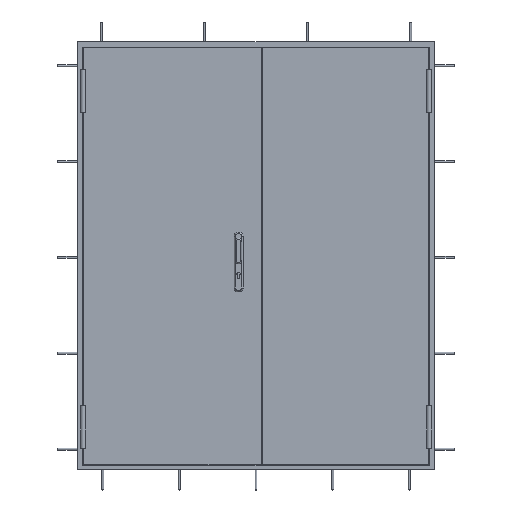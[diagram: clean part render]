
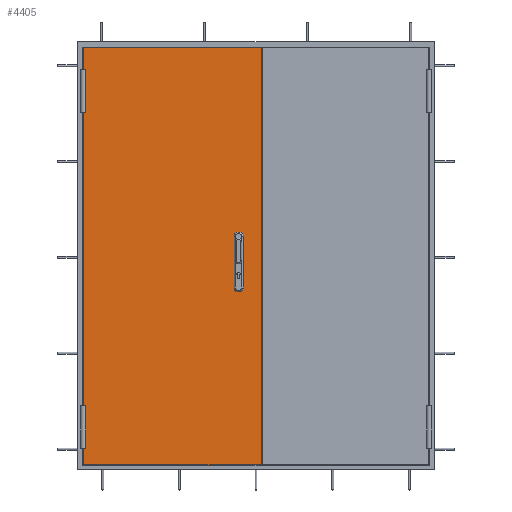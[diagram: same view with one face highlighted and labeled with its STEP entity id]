
A CAD part, top view. The second image highlights one B-rep face of the part: STEP entity #4405.
In plain terms, the highlighted planar face has unit normal (0, 0, 1).
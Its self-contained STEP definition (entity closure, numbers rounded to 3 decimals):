
#1335=DIRECTION('',(0.,1.,0.));
#1336=VECTOR('',#1335,2092.);
#1337=CARTESIAN_POINT('',(26.5,-1054.,0.));
#1338=LINE('',#1337,#1336);
#1339=DIRECTION('',(1.,0.,0.));
#1340=VECTOR('',#1339,892.5);
#1341=CARTESIAN_POINT('',(-866.,-1054.,0.));
#1342=LINE('',#1341,#1340);
#1343=DIRECTION('',(0.,-1.,0.));
#1344=VECTOR('',#1343,83.5);
#1345=CARTESIAN_POINT('',(-866.,-970.5,0.));
#1346=LINE('',#1345,#1344);
#1347=DIRECTION('',(1.,0.,0.));
#1348=VECTOR('',#1347,10.25);
#1349=CARTESIAN_POINT('',(-866.,-970.5,0.));
#1350=LINE('',#1349,#1348);
#1351=DIRECTION('',(0.,-1.,0.));
#1352=VECTOR('',#1351,213.);
#1353=CARTESIAN_POINT('',(-855.75,-757.5,0.));
#1354=LINE('',#1353,#1352);
#1355=DIRECTION('',(1.,0.,0.));
#1356=VECTOR('',#1355,10.25);
#1357=CARTESIAN_POINT('',(-866.,-757.5,0.));
#1358=LINE('',#1357,#1356);
#1359=DIRECTION('',(0.,-1.,0.));
#1360=VECTOR('',#1359,1472.);
#1361=CARTESIAN_POINT('',(-866.,714.5,0.));
#1362=LINE('',#1361,#1360);
#1363=DIRECTION('',(1.,0.,0.));
#1364=VECTOR('',#1363,10.25);
#1365=CARTESIAN_POINT('',(-866.,714.5,0.));
#1366=LINE('',#1365,#1364);
#1367=DIRECTION('',(0.,1.,0.));
#1368=VECTOR('',#1367,213.);
#1369=CARTESIAN_POINT('',(-855.75,714.5,0.));
#1370=LINE('',#1369,#1368);
#1371=DIRECTION('',(1.,0.,0.));
#1372=VECTOR('',#1371,10.25);
#1373=CARTESIAN_POINT('',(-866.,927.5,0.));
#1374=LINE('',#1373,#1372);
#1375=DIRECTION('',(0.,-1.,0.));
#1376=VECTOR('',#1375,110.5);
#1377=CARTESIAN_POINT('',(-866.,1038.,0.));
#1378=LINE('',#1377,#1376);
#1379=DIRECTION('',(-1.,0.,0.));
#1380=VECTOR('',#1379,892.5);
#1381=CARTESIAN_POINT('',(26.5,1038.,0.));
#1382=LINE('',#1381,#1380);
#1383=DIRECTION('',(0.,-1.,0.));
#1384=VECTOR('',#1383,260.);
#1385=CARTESIAN_POINT('',(-110.,92.9,0.));
#1386=LINE('',#1385,#1384);
#1387=CARTESIAN_POINT('',(-90.,-167.1,0.));
#1388=DIRECTION('',(0.,0.,1.));
#1389=DIRECTION('',(-1.,0.,0.));
#1390=AXIS2_PLACEMENT_3D('',#1387,#1388,#1389);
#1392=DIRECTION('',(1.,0.,0.));
#1393=VECTOR('',#1392,5.);
#1394=CARTESIAN_POINT('',(-90.,-187.1,0.));
#1395=LINE('',#1394,#1393);
#1396=CARTESIAN_POINT('',(-85.,-167.1,0.));
#1397=DIRECTION('',(0.,0.,1.));
#1398=DIRECTION('',(0.,-1.,0.));
#1399=AXIS2_PLACEMENT_3D('',#1396,#1397,#1398);
#1401=DIRECTION('',(0.,1.,0.));
#1402=VECTOR('',#1401,260.);
#1403=CARTESIAN_POINT('',(-65.,-167.1,0.));
#1404=LINE('',#1403,#1402);
#1405=CARTESIAN_POINT('',(-85.,92.9,0.));
#1406=DIRECTION('',(0.,0.,1.));
#1407=DIRECTION('',(1.,0.,0.));
#1408=AXIS2_PLACEMENT_3D('',#1405,#1406,#1407);
#1410=DIRECTION('',(-1.,0.,0.));
#1411=VECTOR('',#1410,5.);
#1412=CARTESIAN_POINT('',(-85.,112.9,0.));
#1413=LINE('',#1412,#1411);
#1414=CARTESIAN_POINT('',(-90.,92.9,0.));
#1415=DIRECTION('',(0.,0.,1.));
#1416=DIRECTION('',(0.,1.,0.));
#1417=AXIS2_PLACEMENT_3D('',#1414,#1415,#1416);
#2344=CARTESIAN_POINT('',(-866.,1038.,0.));
#2345=VERTEX_POINT('',#2344);
#2346=CARTESIAN_POINT('',(-866.,-1054.,0.));
#2347=VERTEX_POINT('',#2346);
#2360=CARTESIAN_POINT('',(-866.,-970.5,0.));
#2361=CARTESIAN_POINT('',(-855.75,-970.5,0.));
#2362=VERTEX_POINT('',#2360);
#2363=VERTEX_POINT('',#2361);
#2364=CARTESIAN_POINT('',(-866.,-757.5,0.));
#2365=CARTESIAN_POINT('',(-855.75,-757.5,0.));
#2366=VERTEX_POINT('',#2364);
#2367=VERTEX_POINT('',#2365);
#2384=CARTESIAN_POINT('',(-866.,927.5,0.));
#2385=CARTESIAN_POINT('',(-855.75,927.5,0.));
#2386=VERTEX_POINT('',#2384);
#2387=VERTEX_POINT('',#2385);
#2388=CARTESIAN_POINT('',(-866.,714.5,0.));
#2389=CARTESIAN_POINT('',(-855.75,714.5,0.));
#2390=VERTEX_POINT('',#2388);
#2391=VERTEX_POINT('',#2389);
#2452=CARTESIAN_POINT('',(26.5,-1054.,0.));
#2453=CARTESIAN_POINT('',(26.5,1038.,0.));
#2454=VERTEX_POINT('',#2452);
#2455=VERTEX_POINT('',#2453);
#2720=CARTESIAN_POINT('',(-110.,92.9,0.));
#2721=CARTESIAN_POINT('',(-110.,-167.1,0.));
#2722=VERTEX_POINT('',#2720);
#2723=VERTEX_POINT('',#2721);
#2724=CARTESIAN_POINT('',(-90.,-187.1,0.));
#2725=CARTESIAN_POINT('',(-85.,-187.1,0.));
#2726=VERTEX_POINT('',#2724);
#2727=VERTEX_POINT('',#2725);
#2728=CARTESIAN_POINT('',(-65.,-167.1,0.));
#2729=CARTESIAN_POINT('',(-65.,92.9,0.));
#2730=VERTEX_POINT('',#2728);
#2731=VERTEX_POINT('',#2729);
#2732=CARTESIAN_POINT('',(-85.,112.9,0.));
#2733=CARTESIAN_POINT('',(-90.,112.9,0.));
#2734=VERTEX_POINT('',#2732);
#2735=VERTEX_POINT('',#2733);
#4356=CARTESIAN_POINT('',(0.,0.,0.));
#4357=DIRECTION('',(0.,0.,1.));
#4358=DIRECTION('',(1.,0.,0.));
#4359=AXIS2_PLACEMENT_3D('',#4356,#4357,#4358);
#4360=PLANE('',#4359);
#4362=ORIENTED_EDGE('',*,*,#4361,.F.);
#4364=ORIENTED_EDGE('',*,*,#4363,.F.);
#4366=ORIENTED_EDGE('',*,*,#4365,.F.);
#4368=ORIENTED_EDGE('',*,*,#4367,.T.);
#4370=ORIENTED_EDGE('',*,*,#4369,.F.);
#4372=ORIENTED_EDGE('',*,*,#4371,.F.);
#4374=ORIENTED_EDGE('',*,*,#4373,.F.);
#4376=ORIENTED_EDGE('',*,*,#4375,.T.);
#4378=ORIENTED_EDGE('',*,*,#4377,.T.);
#4380=ORIENTED_EDGE('',*,*,#4379,.F.);
#4382=ORIENTED_EDGE('',*,*,#4381,.F.);
#4384=ORIENTED_EDGE('',*,*,#4383,.F.);
#4385=EDGE_LOOP('',(#4362,#4364,#4366,#4368,#4370,#4372,#4374,#4376,#4378,#4380,
#4382,#4384));
#4386=FACE_OUTER_BOUND('',#4385,.F.);
#4388=ORIENTED_EDGE('',*,*,#4387,.T.);
#4390=ORIENTED_EDGE('',*,*,#4389,.T.);
#4392=ORIENTED_EDGE('',*,*,#4391,.T.);
#4394=ORIENTED_EDGE('',*,*,#4393,.T.);
#4396=ORIENTED_EDGE('',*,*,#4395,.T.);
#4398=ORIENTED_EDGE('',*,*,#4397,.T.);
#4400=ORIENTED_EDGE('',*,*,#4399,.T.);
#4402=ORIENTED_EDGE('',*,*,#4401,.T.);
#4403=EDGE_LOOP('',(#4388,#4390,#4392,#4394,#4396,#4398,#4400,#4402));
#4404=FACE_BOUND('',#4403,.F.);
#1391=CIRCLE('',#1390,20.);
#1400=CIRCLE('',#1399,20.);
#1409=CIRCLE('',#1408,20.);
#1418=CIRCLE('',#1417,20.);
#4361=EDGE_CURVE('',#2454,#2455,#1338,.T.);
#4363=EDGE_CURVE('',#2347,#2454,#1342,.T.);
#4365=EDGE_CURVE('',#2362,#2347,#1346,.T.);
#4367=EDGE_CURVE('',#2362,#2363,#1350,.T.);
#4369=EDGE_CURVE('',#2367,#2363,#1354,.T.);
#4371=EDGE_CURVE('',#2366,#2367,#1358,.T.);
#4373=EDGE_CURVE('',#2390,#2366,#1362,.T.);
#4375=EDGE_CURVE('',#2390,#2391,#1366,.T.);
#4377=EDGE_CURVE('',#2391,#2387,#1370,.T.);
#4379=EDGE_CURVE('',#2386,#2387,#1374,.T.);
#4381=EDGE_CURVE('',#2345,#2386,#1378,.T.);
#4383=EDGE_CURVE('',#2455,#2345,#1382,.T.);
#4387=EDGE_CURVE('',#2722,#2723,#1386,.T.);
#4389=EDGE_CURVE('',#2723,#2726,#1391,.T.);
#4391=EDGE_CURVE('',#2726,#2727,#1395,.T.);
#4393=EDGE_CURVE('',#2727,#2730,#1400,.T.);
#4395=EDGE_CURVE('',#2730,#2731,#1404,.T.);
#4397=EDGE_CURVE('',#2731,#2734,#1409,.T.);
#4399=EDGE_CURVE('',#2734,#2735,#1413,.T.);
#4401=EDGE_CURVE('',#2735,#2722,#1418,.T.);
#4405=ADVANCED_FACE('',(#4386,#4404),#4360,.T.);
